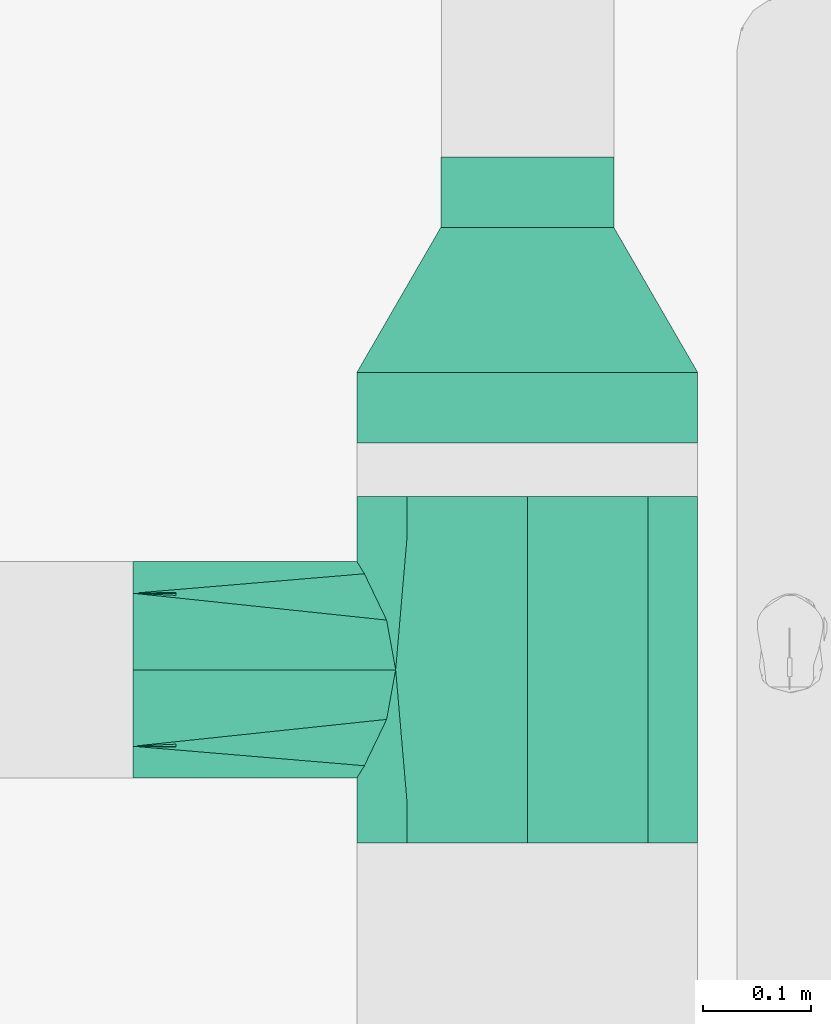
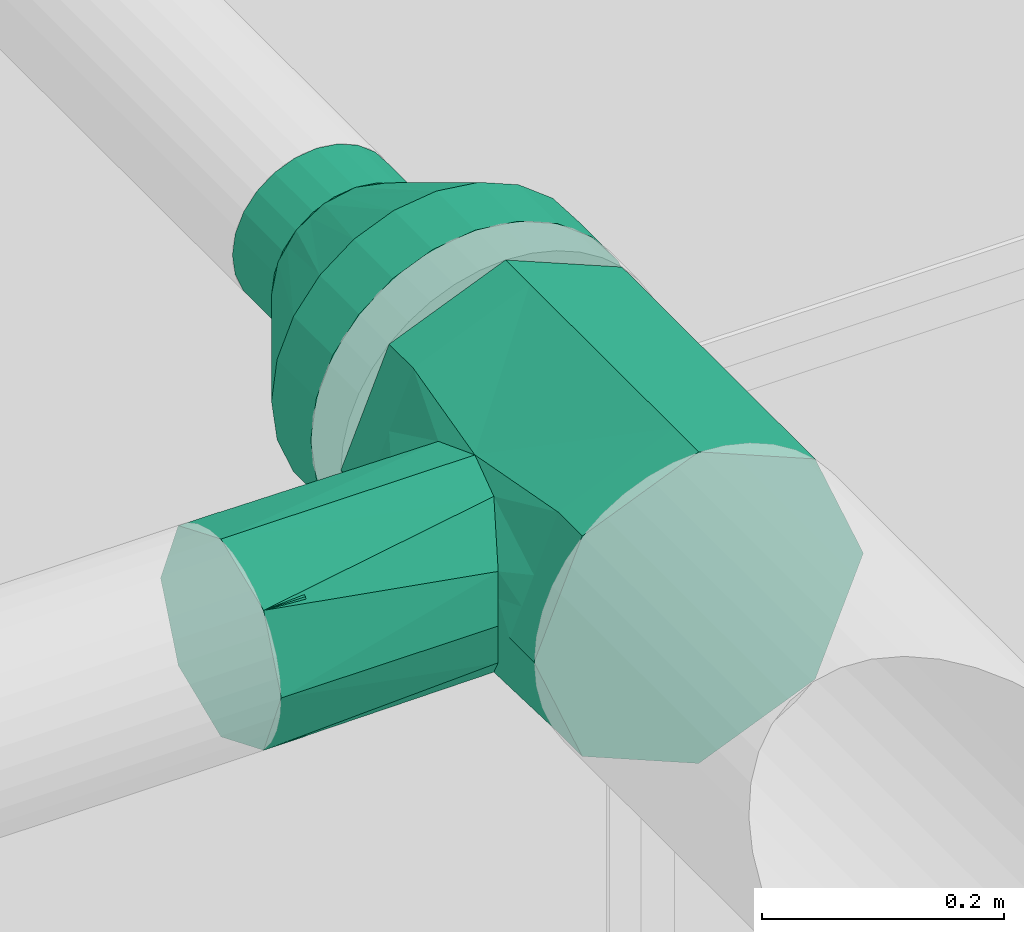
# One storey, part 28 of 31: 2 flow fittings.
"""IFC2X3 building model written with IfcOpenShell, lengths in millimetres."""

from ifc_helpers import new_model, entity, si_unit, converted_unit, derived_unit, direction, frame, origin, place, context, subcontext, project, spatial, faceted_brep, source, transform, mapped, material, material_list, type_object, type_shapes, element, save


model = new_model("IFC2X3")

# Units and contexts
model_context = context("Model", 3, precision=0.01, world=origin(), true_north=direction((6.123031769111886e-17, 1.0)))
body_context = subcontext(model_context, "Body", "Model", "MODEL_VIEW")
ifc_project = project(units=[si_unit("LENGTHUNIT", "METRE", prefix="MILLI"), si_unit("AREAUNIT", "SQUARE_METRE"), si_unit("VOLUMEUNIT", "CUBIC_METRE"), converted_unit("PLANEANGLEUNIT", "DEGREE", entity("IfcRatioMeasure", 0.017453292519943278), si_unit("PLANEANGLEUNIT", "RADIAN"), dimensions=[0, 0, 0, 0, 0, 0, 0]), si_unit("MASSUNIT", "GRAM", prefix="KILO"), derived_unit("MASSDENSITYUNIT", [(si_unit("MASSUNIT", "GRAM", prefix="KILO"), 1), (si_unit("LENGTHUNIT", "METRE"), -3)]), derived_unit("MOMENTOFINERTIAUNIT", [(si_unit("LENGTHUNIT", "METRE"), 4)]), si_unit("TIMEUNIT", "SECOND"), si_unit("FREQUENCYUNIT", "HERTZ"), si_unit("THERMODYNAMICTEMPERATUREUNIT", "DEGREE_CELSIUS"), derived_unit("THERMALTRANSMITTANCEUNIT", [(si_unit("MASSUNIT", "GRAM", prefix="KILO"), 1), (si_unit("THERMODYNAMICTEMPERATUREUNIT", "KELVIN"), -1), (si_unit("TIMEUNIT", "SECOND"), -3)]), derived_unit("VOLUMETRICFLOWRATEUNIT", [(si_unit("LENGTHUNIT", "METRE"), 3), (si_unit("TIMEUNIT", "SECOND"), -1)]), derived_unit("MASSFLOWRATEUNIT", [(si_unit("MASSUNIT", "GRAM", prefix="KILO"), 1), (si_unit("TIMEUNIT", "SECOND"), -1)]), derived_unit("ROTATIONALFREQUENCYUNIT", [(si_unit("TIMEUNIT", "SECOND"), -1)]), si_unit("ELECTRICCURRENTUNIT", "AMPERE"), si_unit("ELECTRICVOLTAGEUNIT", "VOLT"), si_unit("POWERUNIT", "WATT"), si_unit("FORCEUNIT", "NEWTON", prefix="KILO"), si_unit("ILLUMINANCEUNIT", "LUX"), si_unit("LUMINOUSFLUXUNIT", "LUMEN"), si_unit("LUMINOUSINTENSITYUNIT", "CANDELA"), derived_unit("USERDEFINED", [(si_unit("MASSUNIT", "GRAM", prefix="KILO"), -1), (si_unit("LENGTHUNIT", "METRE"), -2), (si_unit("TIMEUNIT", "SECOND"), 3), (si_unit("LUMINOUSFLUXUNIT", "LUMEN"), 1)]), derived_unit("SOUNDPOWERUNIT", [(si_unit("MASSUNIT", "GRAM", prefix="KILO"), 1), (si_unit("LENGTHUNIT", "METRE"), 2), (si_unit("TIMEUNIT", "SECOND"), -3)]), derived_unit("SOUNDPRESSUREUNIT", [(si_unit("MASSUNIT", "GRAM", prefix="KILO"), 1), (si_unit("LENGTHUNIT", "METRE"), -1), (si_unit("TIMEUNIT", "SECOND"), -2)]), derived_unit("LINEARVELOCITYUNIT", [(si_unit("LENGTHUNIT", "METRE"), 1), (si_unit("TIMEUNIT", "SECOND"), -1)]), si_unit("PRESSUREUNIT", "PASCAL"), derived_unit("USERDEFINED", [(si_unit("LENGTHUNIT", "METRE"), -2), (si_unit("MASSUNIT", "GRAM", prefix="KILO"), 1), (si_unit("TIMEUNIT", "SECOND"), -2)]), derived_unit("LINEARFORCEUNIT", [(si_unit("MASSUNIT", "GRAM", prefix="KILO"), 1), (si_unit("LENGTHUNIT", "METRE"), 1), (si_unit("TIMEUNIT", "SECOND"), -2), (si_unit("LENGTHUNIT", "METRE"), -1)]), derived_unit("PLANARFORCEUNIT", [(si_unit("MASSUNIT", "GRAM", prefix="KILO"), 1), (si_unit("LENGTHUNIT", "METRE"), 1), (si_unit("TIMEUNIT", "SECOND"), -2), (si_unit("LENGTHUNIT", "METRE"), -2)])], contexts=[model_context])

# Site, building, storey
site_placement = place(None, origin())
site = spatial("IfcSite", under=ifc_project, at=site_placement, Name="Default", CompositionType="ELEMENT")
building_placement = place(site_placement, origin())
building = spatial("IfcBuilding", under=site, at=building_placement, CompositionType="ELEMENT")
storey_placement = place(building_placement, frame((0.0, 0.0, 3880.0)))
storey = spatial("IfcBuildingStorey", under=building, at=storey_placement, Name="Niveau 1", CompositionType="ELEMENT", Elevation=3880.0)

# Flow fittings
ifc_material = material(Name="<Unnamed>")
ifc_material_list_1 = material_list([ifc_material, ifc_material, ifc_material])
ifc_material_list_2 = material_list([ifc_material, ifc_material, ifc_material])
duct_fitting_type_1 = type_object("IfcDuctFittingType", Name="Circul - Std - Reduction conique - ALDES - STANDARD - (Ba) (1):Standard", PredefinedType="NOTDEFINED", material=ifc_material_list_2)
shared_shape_1 = source(origin(), body_context, "Body", "Brep", [
    faceted_brep([(134.0, 0.0, 80.0), (134.0, 20.705523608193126, 77.2740661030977), (134.0, 40.0, 69.2820323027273), (134.0, 56.568542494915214, 56.56854249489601), (134.0, 69.28203230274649, 40.0), (134.0, 77.27406610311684, 20.705523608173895), (134.0, 80.0, 0.0), (134.0, 77.27406610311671, -20.70552360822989), (134.0, 69.28203230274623, -40.0), (134.0, 56.56854249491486, -56.56854249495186), (134.0, 40.0, -69.28203230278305), (134.0, 20.705523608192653, -77.2740661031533), (134.0, 0.0, -80.0), (134.0, -20.705523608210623, -77.27406610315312), (134.0, -40.0, -69.28203230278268), (134.0, -56.56854249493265, -56.56854249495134), (134.0, -69.28203230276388, -40.0), (134.0, -77.27406610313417, -20.705523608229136), (134.0, -80.0, 0.0), (134.0, -77.27406610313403, 20.70552360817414), (134.0, -69.28203230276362, 40.0), (134.0, -56.56854249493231, 56.56854249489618), (134.0, -40.0, 69.28203230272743), (134.0, -20.705523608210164, 77.27406610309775), (199.0, 20.70552360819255, -77.2740661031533), (199.0, 40.0, -69.28203230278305), (199.0, 56.56854249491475, -56.56854249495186), (199.0, 69.28203230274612, -40.0), (199.0, 77.27406610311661, -20.70552360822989), (199.0, 80.0, 0.0), (199.0, 77.27406610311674, 20.705523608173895), (199.0, 69.28203230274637, 40.0), (199.0, 56.56854249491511, 56.56854249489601), (199.0, 40.0, 69.2820323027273), (199.0, 20.705523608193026, 77.2740661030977), (199.0, 0.0, 80.0), (199.0, -20.705523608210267, 77.27406610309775), (199.0, -40.0, 69.28203230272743), (199.0, -56.568542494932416, 56.56854249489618), (199.0, -69.28203230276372, 40.0), (199.0, -77.27406610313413, 20.70552360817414), (199.0, -80.0, 0.0), (199.0, -77.27406610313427, -20.705523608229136), (199.0, -69.282032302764, -40.0), (199.0, -56.56854249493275, -56.56854249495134), (199.0, -40.0, -69.28203230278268), (199.0, -20.70552360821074, -77.27406610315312), (199.0, 0.0, -80.0)], [[[0, 1, 2, 3, 4, 5, 6, 7, 8, 9, 10, 11, 12, 13, 14, 15, 16, 17, 18, 19, 20, 21, 22, 23]], [[24, 25, 26, 27, 28, 29, 30, 31, 32, 33, 34, 35, 36, 37, 38, 39, 40, 41, 42, 43, 44, 45, 46, 47]], [[42, 41, 18, 17]], [[43, 42, 17, 16]], [[45, 14, 13, 46]], [[46, 13, 12, 47]], [[44, 15, 14, 45]], [[15, 44, 43, 16]], [[24, 11, 10, 25]], [[9, 26, 25, 10]], [[27, 8, 7, 28]], [[9, 8, 27, 26]], [[28, 7, 6, 29]], [[11, 24, 47, 12]], [[5, 30, 29, 6]], [[4, 31, 30, 5]], [[4, 3, 32, 31]], [[3, 2, 33, 32]], [[35, 34, 1, 0]], [[1, 34, 33, 2]], [[36, 23, 22, 37]], [[21, 38, 37, 22]], [[39, 20, 19, 40]], [[21, 20, 39, 38]], [[40, 19, 18, 41]], [[23, 36, 35, 0]]]),
    faceted_brep([(0.0, 0.0, -157.5000000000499), (0.0, 40.76399960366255, -152.13331764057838), (0.0, 78.75000000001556, -136.39900109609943), (0.0, 111.36931803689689, -111.36931803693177), (0.0, 136.3990010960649, -78.75000000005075), (0.0, 152.13331764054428, -40.763999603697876), (0.0, 157.50000000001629, 0.0), (0.0, 152.13331764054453, 40.763999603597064), (0.0, 136.3990010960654, 78.74999999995), (0.0, 111.36931803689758, 111.36931803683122), (0.0, 78.75000000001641, 136.39900109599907), (0.0, 40.7639996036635, 152.13331764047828), (0.0, 0.0, 157.4999999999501), (0.0, -40.763999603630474, 152.1333176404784), (0.0, -78.74999999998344, 136.39900109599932), (0.0, -111.3693180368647, 111.36931803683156), (0.0, -136.39900109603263, 78.74999999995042), (0.0, -152.13331764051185, 40.76399960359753), (0.0, -157.49999999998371, 0.0), (0.0, -152.13331764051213, -40.763999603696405), (0.0, -136.3990010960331, -78.75000000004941), (0.0, -111.36931803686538, -111.36931803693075), (0.0, -78.74999999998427, -136.3990010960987), (0.0, -40.76399960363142, -152.133317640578), (-65.0, 0.0, 157.4999999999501), (-65.0, 40.7639996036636, 152.13331764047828), (-65.0, 78.75000000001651, 136.39900109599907), (-65.0, 111.36931803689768, 111.36931803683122), (-65.0, 136.3990010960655, 78.74999999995), (-65.0, 152.13331764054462, 40.763999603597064), (-65.0, 157.50000000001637, 0.0), (-65.0, 152.1333176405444, -40.763999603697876), (-65.0, 136.399001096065, -78.75000000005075), (-65.0, 111.36931803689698, -111.36931803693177), (-65.0, 78.75000000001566, -136.39900109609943), (-65.0, 40.763999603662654, -152.13331764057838), (-65.0, 0.0, -157.5000000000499), (-65.0, -40.76399960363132, -152.133317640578), (-65.0, -78.74999999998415, -136.3990010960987), (-65.0, -111.36931803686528, -111.36931803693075), (-65.0, -136.399001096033, -78.75000000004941), (-65.0, -152.13331764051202, -40.763999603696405), (-65.0, -157.49999999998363, 0.0), (-65.0, -152.13331764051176, 40.76399960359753), (-65.0, -136.39900109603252, 78.74999999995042), (-65.0, -111.3693180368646, 111.36931803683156), (-65.0, -78.74999999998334, 136.39900109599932), (-65.0, -40.76399960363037, 152.1333176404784)], [[[0, 1, 2, 3, 4, 5, 6, 7, 8, 9, 10, 11, 12, 13, 14, 15, 16, 17, 18, 19, 20, 21, 22, 23]], [[24, 25, 26, 27, 28, 29, 30, 31, 32, 33, 34, 35, 36, 37, 38, 39, 40, 41, 42, 43, 44, 45, 46, 47]], [[41, 19, 18, 42]], [[40, 20, 19, 41]], [[22, 21, 39, 38]], [[40, 39, 21, 20]], [[23, 22, 38, 37]], [[0, 23, 37, 36]], [[1, 0, 36, 35]], [[2, 1, 35, 34]], [[4, 32, 31, 5]], [[5, 31, 30, 6]], [[34, 33, 3, 2]], [[33, 32, 4, 3]], [[29, 7, 6, 30]], [[28, 8, 7, 29]], [[10, 9, 27, 26]], [[28, 27, 9, 8]], [[11, 10, 26, 25]], [[12, 11, 25, 24]], [[14, 46, 45, 15]], [[16, 44, 43, 17]], [[45, 44, 16, 15]], [[17, 43, 42, 18]], [[13, 47, 46, 14]], [[13, 12, 24, 47]]]),
    faceted_brep([(134.0, 15.307337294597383, -76.95518130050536), (134.0, 30.614674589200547, -73.9103626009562), (134.0, 43.59160854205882, -65.23945254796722), (134.0, 56.568542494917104, -56.56854249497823), (134.0, 65.23945254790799, -43.59160854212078), (134.0, 73.91036260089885, -30.614674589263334), (134.0, 76.95518130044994, -15.307337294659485), (134.0, 80.0, 0.0), (134.0, 76.95518130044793, 15.307337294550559), (134.0, 73.9103626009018, 30.614674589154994), (134.0, 65.23945254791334, 43.591608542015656), (134.0, 56.56854249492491, 56.56854249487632), (134.0, 43.59160854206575, 65.23945254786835), (134.0, 30.614674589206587, 73.9103626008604), (134.0, 15.307337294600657, 76.95518130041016), (134.0, 0.0, 80.0), (134.0, -15.307337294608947, 76.95518130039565), (134.0, -30.61467458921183, 73.91036260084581), (134.0, -43.59160854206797, 65.2394525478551), (134.0, -56.568542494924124, 56.568542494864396), (134.0, -65.2394525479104, 43.591608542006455), (134.0, -73.91036260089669, 30.614674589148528), (134.0, -76.95518130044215, 15.307337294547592), (134.0, -80.0, 0.0), (134.0, -76.95518130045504, -15.30733729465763), (134.0, -73.91036260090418, -30.6146745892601), (134.0, -65.23945254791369, -43.59160854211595), (134.0, -56.5685424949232, -56.5685424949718), (134.0, -43.59160854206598, -65.23945254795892), (134.0, -30.614674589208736, -73.91036260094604), (134.0, -15.30733729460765, -76.95518130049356), (134.0, 0.0, -80.0), (0.0, -40.76399960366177, -152.1333176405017), (0.0, -78.75000000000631, -136.39900109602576), (0.0, -111.36931803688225, -111.36931803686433), (0.0, -136.39900109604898, -78.74999999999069), (0.0, -152.13331764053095, -40.76399960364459), (0.0, -157.49999999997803, 0.0), (0.0, -152.13331764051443, 40.76399960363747), (0.0, -136.39900109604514, 78.74999999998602), (0.0, -111.3693180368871, 111.36931803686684), (0.0, -78.75000000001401, 136.3990010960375), (0.0, -40.76399960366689, 152.1333176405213), (0.0, 0.0, 157.50000000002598), (0.0, 40.76399960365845, 152.13331764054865), (0.0, 78.7500000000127, 136.39900109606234), (0.0, 111.36931803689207, 111.36931803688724), (0.0, 136.39900109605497, 78.75000000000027), (0.0, 152.13331764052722, 40.763999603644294), (0.0, 157.5000000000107, 0.0), (0.0, 152.13331764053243, -40.763999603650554), (0.0, 136.3990010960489, -78.75000000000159), (0.0, 111.36931803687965, -111.36931803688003), (0.0, 78.74999999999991, -136.39900109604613), (0.0, 40.76399960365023, -152.13331764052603), (0.0, 0.0, -157.49999999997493)], [[[0, 1, 2, 3, 4, 5, 6, 7, 8, 9, 10, 11, 12, 13, 14, 15, 16, 17, 18, 19, 20, 21, 22, 23, 24, 25, 26, 27, 28, 29, 30, 31]], [[32, 33, 34, 35, 36, 37, 38, 39, 40, 41, 42, 43, 44, 45, 46, 47, 48, 49, 50, 51, 52, 53, 54, 55]], [[43, 14, 44]], [[12, 11, 46]], [[12, 46, 45]], [[45, 13, 12]], [[44, 13, 45]], [[10, 46, 11]], [[46, 10, 47]], [[10, 9, 47]], [[7, 49, 8]], [[14, 43, 15]], [[48, 47, 9]], [[8, 49, 48]], [[14, 13, 44]], [[48, 9, 8]], [[37, 22, 38]], [[20, 19, 40]], [[20, 40, 39]], [[39, 21, 20]], [[38, 21, 39]], [[18, 40, 19]], [[40, 18, 41]], [[18, 17, 41]], [[15, 43, 16]], [[22, 37, 23]], [[42, 41, 17]], [[16, 43, 42]], [[22, 21, 38]], [[42, 17, 16]], [[55, 30, 32]], [[28, 27, 34]], [[28, 34, 33]], [[33, 29, 28]], [[32, 29, 33]], [[26, 34, 27]], [[34, 26, 35]], [[26, 25, 35]], [[23, 37, 24]], [[30, 55, 31]], [[36, 35, 25]], [[24, 37, 36]], [[30, 29, 32]], [[36, 25, 24]], [[49, 6, 50]], [[4, 3, 52]], [[4, 52, 51]], [[51, 5, 4]], [[50, 5, 51]], [[2, 52, 3]], [[52, 2, 53]], [[2, 1, 53]], [[31, 55, 0]], [[6, 49, 7]], [[54, 53, 1]], [[0, 55, 54]], [[6, 5, 50]], [[54, 1, 0]]]),
])
type_shapes(duct_fitting_type_1, [shared_shape_1])
flow_fitting_1_placement = place(storey_placement, frame((-2195.0, -4167.552532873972, 3150.0), z_axis=(0.0, 0.0, 1.0), x_axis=(0.0, 1.0, 0.0)))
element("IfcFlowFitting", 1, at=flow_fitting_1_placement, inside=storey, type_object=duct_fitting_type_1, material=ifc_material_list_1, Name="Circul - Std - Reduction conique - ALDES - STANDARD - (Ba) (1):Standard", ObjectType="Circul - Std - Reduction conique - ALDES - STANDARD - (Ba) (1):Standard", context=body_context, shape_type="MappedRepresentation", body=[
    mapped(shared_shape_1, transform((0.0, 0.0, 0.0), scale=1.0)),
])
ifc_material_list_3 = material_list([ifc_material, ifc_material, ifc_material, ifc_material])
ifc_material_list_4 = material_list([ifc_material, ifc_material, ifc_material, ifc_material])
duct_fitting_type_2 = type_object("IfcDuctFittingType", Name="Circul - Std - Té - ALDES - STANDARD - (Ba) (1):Standard", PredefinedType="NOTDEFINED", material=ifc_material_list_4)
shared_shape_2 = source(origin(), body_context, "Body", "Brep", [
    faceted_brep([(120.0, 157.49999999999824, 0.0), (120.0, 111.36931803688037, 111.36931803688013), (120.0, 0.0, 157.4999999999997), (120.0, -111.36931803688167, 111.36931803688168), (120.0, -134.4346590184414, 55.6846590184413), (120.0, -145.9673295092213, 27.84232950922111), (120.0, -157.50000000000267, 0.0), (120.0, -145.96732950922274, -27.842329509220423), (120.0, -134.43465901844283, -55.68465901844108), (120.0, -111.36931803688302, -111.3693180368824), (120.0, 0.0, -157.49999999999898), (120.0, 111.36931803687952, -111.36931803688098), (-120.0, 0.0, 157.4999999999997), (-120.0, -111.3693180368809, 111.36931803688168), (0.0, -121.68093523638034, 100.0), (88.71443120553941, -150.5871850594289, 46.14921121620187), (45.891786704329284, -130.0473224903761, 88.84786949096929), (-45.89533150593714, -130.04857344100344, 88.84603843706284), (-120.0, -145.96732950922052, 27.84232950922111), (-94.35957056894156, -154.04497991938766, 23.0700780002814), (-88.71914113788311, -150.5899598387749, 46.14015600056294), (-120.0, -157.50000000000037, 0.0), (-100.0, -157.50000000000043, 0.0), (94.35721560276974, -154.04359252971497, 23.074605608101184), (-120.0, -134.4346590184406, 55.684659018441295), (100.0, -157.50000000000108, 0.0), (-94.35957056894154, -154.04497991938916, -23.07007800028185), (-120.0, -145.96732950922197, -27.842329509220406), (-120.0, -134.4346590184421, -55.68465901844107), (-120.0, -111.36931803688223, -111.3693180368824), (-45.89533150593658, -130.04857344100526, -88.84603843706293), (94.35721560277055, -154.04359252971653, -23.07460560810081), (-88.71914113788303, -150.5899598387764, -46.140156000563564), (88.714431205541, -150.58718505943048, -46.149211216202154), (0.0, -121.68093523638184, -100.0), (-120.0, 0.0, -157.50000000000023), (45.8917867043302, -130.0473224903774, -88.8478694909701), (-120.0, 111.3693180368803, -111.36931803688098), (-120.0, 157.49999999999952, 0.0), (-120.0, 111.36931803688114, 111.36931803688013), (-70.7106781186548, -364.49999999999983, 70.71067811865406), (-100.0, -364.49999999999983, 0.0), (-70.71067811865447, -364.49999999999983, -70.71067811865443), (0.0, -364.49999999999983, -100.0), (70.71067811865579, -364.49999999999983, -70.71067811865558), (100.0, -364.49999999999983, 0.0), (70.71067811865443, -364.49999999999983, 70.71067811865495), (0.0, -364.49999999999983, 100.0)], [[[0, 1, 2, 3, 4, 5, 6, 7, 8, 9, 10, 11]], [[12, 13, 14]], [[15, 5, 4]], [[12, 14, 2]], [[14, 3, 2]], [[3, 14, 16]], [[16, 15, 4]], [[14, 13, 17]], [[18, 19, 20]], [[19, 21, 22]], [[5, 15, 23]], [[21, 19, 18]], [[17, 24, 20]], [[6, 23, 25]], [[5, 23, 6]], [[20, 24, 18]], [[4, 3, 16]], [[17, 13, 24]], [[26, 21, 27]], [[28, 29, 30]], [[6, 31, 7]], [[27, 32, 26]], [[31, 33, 7]], [[21, 26, 22]], [[31, 6, 25]], [[33, 8, 7]], [[34, 30, 29]], [[30, 32, 28]], [[34, 29, 35]], [[36, 34, 9]], [[36, 8, 33]], [[10, 9, 34]], [[34, 35, 10]], [[9, 8, 36]], [[32, 27, 28]], [[11, 10, 35, 37]], [[37, 38, 0, 11]], [[1, 0, 38, 39]], [[39, 12, 2, 1]], [[40, 41, 42, 43, 44, 45, 46, 47]], [[14, 47, 16]], [[16, 47, 46]], [[46, 45, 15]], [[45, 25, 23, 15]], [[46, 15, 16]], [[45, 33, 31, 25]], [[33, 45, 44]], [[44, 43, 36]], [[34, 36, 43]], [[44, 36, 33]], [[34, 43, 30]], [[30, 43, 42]], [[42, 41, 32]], [[41, 22, 26, 32]], [[42, 32, 30]], [[41, 20, 19, 22]], [[20, 41, 40]], [[40, 47, 17]], [[14, 17, 47]], [[40, 17, 20]], [[39, 38, 37, 35, 29, 28, 27, 21, 18, 24, 13, 12]]]),
    faceted_brep([(100.0, -364.49999999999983, 0.0), (70.71067811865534, -364.49999999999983, 70.71067811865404), (0.0, -364.49999999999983, 100.0), (-70.71067811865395, -364.49999999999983, 70.7106781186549), (-100.0, -364.49999999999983, 0.0), (-70.71067811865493, -364.49999999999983, -70.71067811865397), (0.0, -364.49999999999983, -100.0), (70.7106781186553, -364.49999999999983, -70.71067811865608), (70.71067811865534, -324.4999999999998, 70.71067811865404), (100.0, -324.4999999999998, 0.0), (70.7106781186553, -324.4999999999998, -70.71067811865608), (0.0, -324.4999999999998, -100.0), (-70.71067811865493, -324.4999999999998, -70.71067811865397), (-100.0, -324.4999999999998, 0.0), (-70.71067811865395, -324.4999999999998, 70.7106781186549), (0.0, -324.4999999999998, 100.0)], [[[0, 1, 2, 3, 4, 5, 6, 7]], [[8, 9, 10, 11, 12, 13, 14, 15]], [[15, 14, 3, 2]], [[3, 14, 13, 4]], [[13, 12, 5, 4]], [[12, 11, 6, 5]], [[11, 10, 7, 6]], [[7, 10, 9, 0]], [[9, 8, 1, 0]], [[1, 8, 15, 2]]]),
    faceted_brep([(120.0, -157.50000000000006, 0.0), (120.0, -111.36931803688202, 111.36931803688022), (120.0, 0.0, 157.49999999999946), (120.0, 111.3693180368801, 111.36931803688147), (120.0, 157.49999999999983, 0.0), (120.0, 111.36931803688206, -111.36931803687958), (120.0, 0.0, -157.50000000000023), (120.0, -111.36931803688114, -111.36931803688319), (160.0, -157.5000000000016, 0.0), (160.0, -111.36931803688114, -111.36931803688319), (160.0, 0.0, -157.49999999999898), (160.0, 111.36931803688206, -111.36931803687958), (160.0, 157.49999999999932, 0.0), (160.0, 111.3693180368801, 111.36931803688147), (160.0, 0.0, 157.4999999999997), (160.0, -111.36931803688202, 111.36931803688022)], [[[0, 1, 2, 3, 4, 5, 6, 7]], [[8, 9, 10, 11, 12, 13, 14, 15]], [[14, 13, 3, 2]], [[3, 13, 12, 4]], [[12, 11, 5, 4]], [[5, 11, 10, 6]], [[10, 9, 7, 6]], [[7, 9, 8, 0]], [[8, 15, 1, 0]], [[1, 15, 14, 2]]]),
    faceted_brep([(-160.0, -157.50000000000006, 0.0), (-160.0, -111.36931803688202, 111.36931803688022), (-160.0, 0.0, 157.49999999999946), (-160.0, 111.3693180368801, 111.36931803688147), (-160.0, 157.49999999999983, 0.0), (-160.0, 111.36931803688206, -111.36931803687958), (-160.0, 0.0, -157.50000000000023), (-160.0, -111.36931803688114, -111.36931803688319), (-120.0, -157.5000000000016, 0.0), (-120.0, -111.36931803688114, -111.36931803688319), (-120.0, 0.0, -157.49999999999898), (-120.0, 111.36931803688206, -111.36931803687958), (-120.0, 157.49999999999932, 0.0), (-120.0, 111.3693180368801, 111.36931803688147), (-120.0, 0.0, 157.4999999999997), (-120.0, -111.36931803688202, 111.36931803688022)], [[[0, 1, 2, 3, 4, 5, 6, 7]], [[8, 9, 10, 11, 12, 13, 14, 15]], [[14, 13, 3, 2]], [[3, 13, 12, 4]], [[12, 11, 5, 4]], [[5, 11, 10, 6]], [[10, 9, 7, 6]], [[7, 9, 8, 0]], [[8, 15, 1, 0]], [[1, 15, 14, 2]]]),
])
type_shapes(duct_fitting_type_2, [shared_shape_2])
flow_fitting_2_placement = place(storey_placement, frame((-2195.0, -4442.355420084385, 3150.0), z_axis=(0.0, 0.0, 1.0), x_axis=(0.0, -1.0, 0.0)))
element("IfcFlowFitting", 2, at=flow_fitting_2_placement, inside=storey, type_object=duct_fitting_type_2, material=ifc_material_list_3, Name="Circul - Std - Té - ALDES - STANDARD - (Ba) (1):Standard", ObjectType="Circul - Std - Té - ALDES - STANDARD - (Ba) (1):Standard", context=body_context, shape_type="MappedRepresentation", body=[
    mapped(shared_shape_2, transform((0.0, 0.0, 0.0), scale=1.0)),
])

save(model, "model.ifc")
